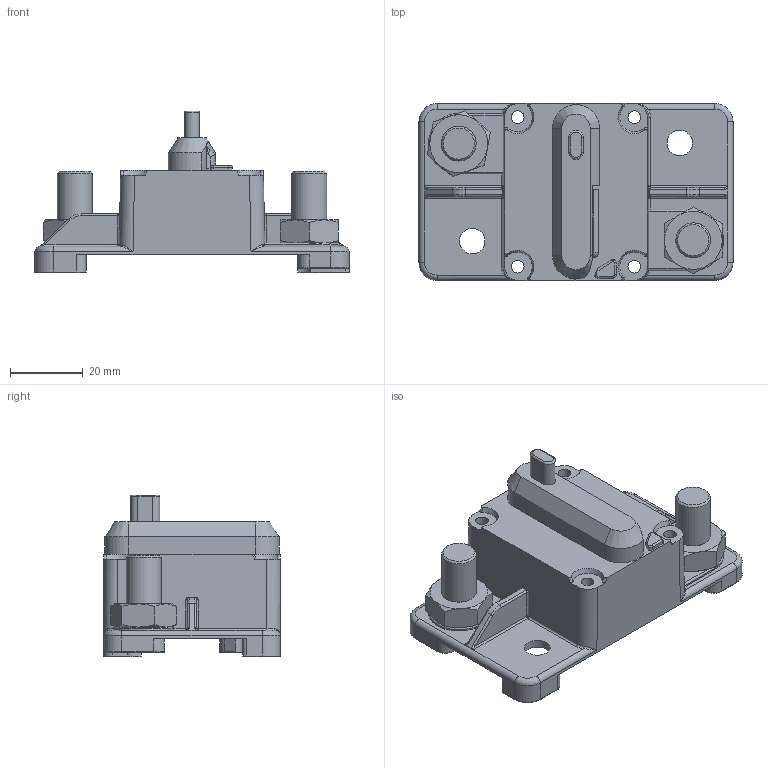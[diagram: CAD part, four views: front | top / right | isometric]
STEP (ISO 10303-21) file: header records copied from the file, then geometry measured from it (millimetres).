
FILE_DESCRIPTION(/* description */ (''),/* implementation_level */ '2;1');
FILE_NAME(/* name */ 'C:\Users\Hani\Desktop\work\353 Circuit Breaker\353 Circuit Breaker.stp',/* time_stamp */ '2021-02-28T20:06:24-08:00',/* author */ ('Hani'),/* organization */ (''),/* preprocessor_version */ 'ST-DEVELOPER v17',/* originating_system */ 'Autodesk Inventor 2019',/* authorisation */ '');
FILE_SCHEMA (('AUTOMOTIVE_DESIGN { 1 0 10303 214 3 1 1 }'));
Length unit declared in the file: inch
Products named in the file (3): 353 Circuit Breaker; Circuit_Breaker series 153; HEX NUT
Assembly tree (3 placements, depth 2):
  353 Circuit Breaker
    Circuit_Breaker series 153
    HEX NUT  x2
Bounding box: 86.11 x 48.5 x 44.37 mm (x, y, z)
Volume: 58217.9 mm3; surface area: 20801.2 mm2
Topology: 3 solids, 3 shells, 379 faces, 923 edges, 556 vertices
Faces by surface type: cylinder 140, plane 120, bspline 46, cone 36, torus 32, sphere 5
Full cylindrical faces by diameter (mm): 3.5 x4, 5.5 x1, 7 x4, 7.463 x4, 7.7 x1, 9.525 x8, 9.652 x2, 13.97 x2, 14.025 x2
Entity records: 12621 total; most frequent: CARTESIAN_POINT 4684, ORIENTED_EDGE 1658, DIRECTION 1599, EDGE_CURVE 829, AXIS2_PLACEMENT_3D 619, VERTEX_POINT 507, EDGE_LOOP 376, LINE 361
